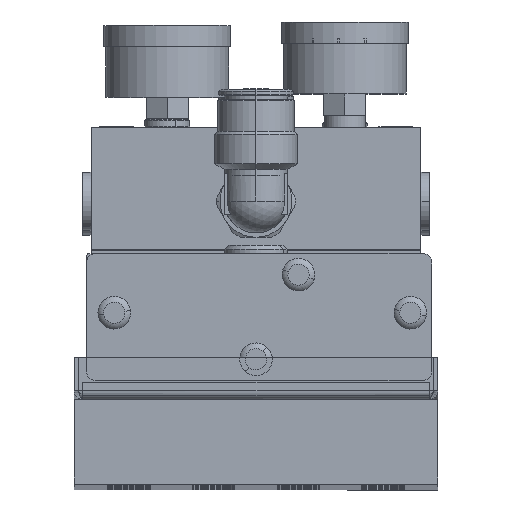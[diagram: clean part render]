
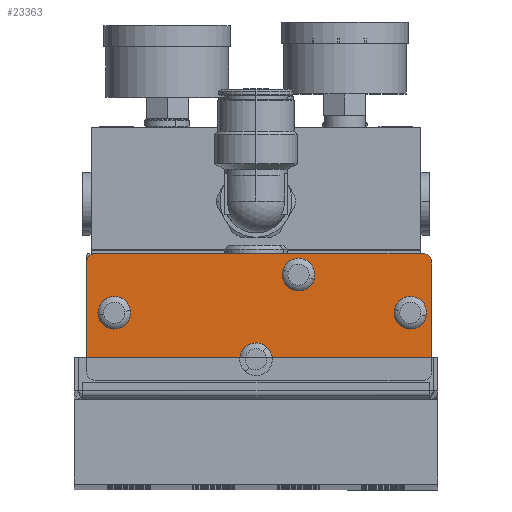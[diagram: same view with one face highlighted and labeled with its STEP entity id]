
A CAD part, top view. The second image highlights one B-rep face of the part: STEP entity #23363.
In plain terms, the highlighted planar face has unit normal (0, 0, 1).
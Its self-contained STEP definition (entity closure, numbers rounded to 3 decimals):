
#1238 = CARTESIAN_POINT ( 'NONE',  ( 39.5, -15., 401. ) ) ;
#1241 = CARTESIAN_POINT ( 'NONE',  ( 32.725, 1.79, 401. ) ) ;
#1379 = CARTESIAN_POINT ( 'NONE',  ( -38., 15., 401. ) ) ;
#1403 = CARTESIAN_POINT ( 'NONE',  ( -29.682, 1.544, 401. ) ) ;
#1425 = CARTESIAN_POINT ( 'NONE',  ( 2.572, -7.126, 401. ) ) ;
#1625 = CARTESIAN_POINT ( 'NONE',  ( 40.275, 0.21, 401. ) ) ;
#1765 = CARTESIAN_POINT ( 'NONE',  ( 13.734, 8.858, 401. ) ) ;
#1973 = CARTESIAN_POINT ( 'NONE',  ( -2.572, -12.874, 401. ) ) ;
#4815 = VERTEX_POINT ( 'NONE', #44480 ) ;
#5043 = VERTEX_POINT ( 'NONE', #15199 ) ;
#5156 = VERTEX_POINT ( 'NONE', #15052 ) ;
#5553 = VERTEX_POINT ( 'NONE', #15742 ) ;
#5660 = VERTEX_POINT ( 'NONE', #15562 ) ;
#5702 = VERTEX_POINT ( 'NONE', #15832 ) ;
#5800 = VERTEX_POINT ( 'NONE', #39839 ) ;
#5803 = VERTEX_POINT ( 'NONE', #39487 ) ;
#7003 = AXIS2_PLACEMENT_3D ( 'NONE', #24754, #24757, #24764 ) ;
#10822 = AXIS2_PLACEMENT_3D ( 'NONE', #55471, #55473, #55475 ) ;
#10983 = AXIS2_PLACEMENT_3D ( 'NONE', #56024, #56026, #56029 ) ;
#11205 = AXIS2_PLACEMENT_3D ( 'NONE', #55890, #55892, #55894 ) ;
#11215 = AXIS2_PLACEMENT_3D ( 'NONE', #55880, #55881, #55883 ) ;
#11221 = AXIS2_PLACEMENT_3D ( 'NONE', #56017, #56018, #56020 ) ;
#11529 = AXIS2_PLACEMENT_3D ( 'NONE', #55861, #55863, #55865 ) ;
#11573 = AXIS2_PLACEMENT_3D ( 'NONE', #55994, #55996, #55997 ) ;
#11574 = AXIS2_PLACEMENT_3D ( 'NONE', #55981, #55982, #55984 ) ;
#11627 = AXIS2_PLACEMENT_3D ( 'NONE', #55829, #55831, #55834 ) ;
#12216 = ORIENTED_EDGE ( 'NONE', *, *, #34752, .T. ) ;
#15052 = CARTESIAN_POINT ( 'NONE',  ( 6.366, 11.142, 401. ) ) ;
#15199 = CARTESIAN_POINT ( 'NONE',  ( -37.318, 0.456, 401. ) ) ;
#15562 = CARTESIAN_POINT ( 'NONE',  ( -40., 13., 401. ) ) ;
#15742 = CARTESIAN_POINT ( 'NONE',  ( -38., -15., 401. ) ) ;
#15832 = CARTESIAN_POINT ( 'NONE',  ( 41.5, 13., 401. ) ) ;
#16169 = ORIENTED_EDGE ( 'NONE', *, *, #52337, .T. ) ;
#16325 = ORIENTED_EDGE ( 'NONE', *, *, #52343, .T. ) ;
#16414 = ORIENTED_EDGE ( 'NONE', *, *, #52321, .T. ) ;
#16614 = ORIENTED_EDGE ( 'NONE', *, *, #52347, .T. ) ;
#16616 = ORIENTED_EDGE ( 'NONE', *, *, #34767, .T. ) ;
#16655 = ORIENTED_EDGE ( 'NONE', *, *, #52330, .T. ) ;
#16689 = ORIENTED_EDGE ( 'NONE', *, *, #52323, .T. ) ;
#16691 = ORIENTED_EDGE ( 'NONE', *, *, #52329, .T. ) ;
#16841 = ORIENTED_EDGE ( 'NONE', *, *, #52348, .T. ) ;
#16846 = ORIENTED_EDGE ( 'NONE', *, *, #52345, .T. ) ;
#16848 = ORIENTED_EDGE ( 'NONE', *, *, #52319, .T. ) ;
#16983 = ORIENTED_EDGE ( 'NONE', *, *, #52326, .T. ) ;
#17085 = ORIENTED_EDGE ( 'NONE', *, *, #52327, .T. ) ;
#17087 = ORIENTED_EDGE ( 'NONE', *, *, #51752, .T. ) ;
#17112 = ORIENTED_EDGE ( 'NONE', *, *, #34660, .T. ) ;
#20185 = LINE ( 'NONE', #55791, #20199 ) ;
#20197 = CIRCLE ( 'NONE', #11627, 2. ) ;
#20199 = VECTOR ( 'NONE', #55813, 1000. ) ;
#20207 = LINE ( 'NONE', #55838, #20213 ) ;
#20213 = VECTOR ( 'NONE', #55843, 1000. ) ;
#20215 = CIRCLE ( 'NONE', #11215, 2. ) ;
#20219 = CIRCLE ( 'NONE', #11529, 2. ) ;
#20223 = LINE ( 'NONE', #55850, #20227 ) ;
#20227 = VECTOR ( 'NONE', #55825, 1000. ) ;
#20233 = CIRCLE ( 'NONE', #11205, 2. ) ;
#20254 = LINE ( 'NONE', #55926, #20260 ) ;
#20260 = VECTOR ( 'NONE', #55929, 1000. ) ;
#20272 = CIRCLE ( 'NONE', #11574, 3.857 ) ;
#20276 = CIRCLE ( 'NONE', #11573, 3.857 ) ;
#20281 = CIRCLE ( 'NONE', #11221, 3.857 ) ;
#20283 = CIRCLE ( 'NONE', #10983, 3.857 ) ;
#23363 = ADVANCED_FACE ( 'NONE', ( #31718, #31676, #31712, #31565, #31698 ), #24751, .F. ) ;
#24751 = PLANE ( 'NONE',  #7003 ) ;
#24754 = CARTESIAN_POINT ( 'NONE',  ( -38., 13., 401. ) ) ;
#24757 = DIRECTION ( 'NONE',  ( 0., 0., -1. ) ) ;
#24764 = DIRECTION ( 'NONE',  ( -1., 0., 0. ) ) ;
#31565 = FACE_BOUND ( 'NONE', #50222, .T. ) ;
#31676 = FACE_BOUND ( 'NONE', #51122, .T. ) ;
#31698 = FACE_OUTER_BOUND ( 'NONE', #50226, .T. ) ;
#31712 = FACE_BOUND ( 'NONE', #50690, .T. ) ;
#31718 = FACE_BOUND ( 'NONE', #50221, .T. ) ;
#34660 = EDGE_CURVE ( 'NONE', #39069, #5156, #40662, .T. ) ;
#34752 = EDGE_CURVE ( 'NONE', #38400, #5043, #40754, .T. ) ;
#34767 = EDGE_CURVE ( 'NONE', #38446, #39304, #40767, .T. ) ;
#36106 = CIRCLE ( 'NONE', #10822, 3.857 ) ;
#37315 = AXIS2_PLACEMENT_3D ( 'NONE', #53246, #53247, #53248 ) ;
#37333 = AXIS2_PLACEMENT_3D ( 'NONE', #53442, #53443, #53444 ) ;
#37339 = AXIS2_PLACEMENT_3D ( 'NONE', #53420, #53421, #53422 ) ;
#37894 = VERTEX_POINT ( 'NONE', #1238 ) ;
#37949 = VERTEX_POINT ( 'NONE', #1241 ) ;
#38314 = VERTEX_POINT ( 'NONE', #1379 ) ;
#38400 = VERTEX_POINT ( 'NONE', #1403 ) ;
#38446 = VERTEX_POINT ( 'NONE', #1425 ) ;
#38896 = VERTEX_POINT ( 'NONE', #1625 ) ;
#39069 = VERTEX_POINT ( 'NONE', #1765 ) ;
#39304 = VERTEX_POINT ( 'NONE', #1973 ) ;
#39487 = CARTESIAN_POINT ( 'NONE',  ( -40., -13., 401. ) ) ;
#39839 = CARTESIAN_POINT ( 'NONE',  ( 41.5, -13., 401. ) ) ;
#40662 = CIRCLE ( 'NONE', #37315, 3.857 ) ;
#40754 = CIRCLE ( 'NONE', #37339, 3.857 ) ;
#40767 = CIRCLE ( 'NONE', #37333, 3.857 ) ;
#44480 = CARTESIAN_POINT ( 'NONE',  ( 39.5, 15., 401. ) ) ;
#50221 = EDGE_LOOP ( 'NONE', ( #17112, #16841 ) ) ;
#50222 = EDGE_LOOP ( 'NONE', ( #16616, #16846 ) ) ;
#50226 = EDGE_LOOP ( 'NONE', ( #16414, #16848, #16983, #16689, #16655, #17085, #16691, #16169 ) ) ;
#50690 = EDGE_LOOP ( 'NONE', ( #12216, #16325 ) ) ;
#51122 = EDGE_LOOP ( 'NONE', ( #17087, #16614 ) ) ;
#51752 = EDGE_CURVE ( 'NONE', #38896, #37949, #36106, .T. ) ;
#52319 = EDGE_CURVE ( 'NONE', #5660, #5803, #20185, .T. ) ;
#52321 = EDGE_CURVE ( 'NONE', #38314, #5660, #20197, .T. ) ;
#52323 = EDGE_CURVE ( 'NONE', #5553, #37894, #20207, .T. ) ;
#52326 = EDGE_CURVE ( 'NONE', #5803, #5553, #20219, .T. ) ;
#52327 = EDGE_CURVE ( 'NONE', #5800, #5702, #20223, .T. ) ;
#52329 = EDGE_CURVE ( 'NONE', #5702, #4815, #20215, .T. ) ;
#52330 = EDGE_CURVE ( 'NONE', #37894, #5800, #20233, .T. ) ;
#52337 = EDGE_CURVE ( 'NONE', #4815, #38314, #20254, .T. ) ;
#52343 = EDGE_CURVE ( 'NONE', #5043, #38400, #20272, .T. ) ;
#52345 = EDGE_CURVE ( 'NONE', #39304, #38446, #20276, .T. ) ;
#52347 = EDGE_CURVE ( 'NONE', #37949, #38896, #20281, .T. ) ;
#52348 = EDGE_CURVE ( 'NONE', #5156, #39069, #20283, .T. ) ;
#53246 = CARTESIAN_POINT ( 'NONE',  ( 10.05, 10., 401. ) ) ;
#53247 = DIRECTION ( 'NONE',  ( 0., 0., -1. ) ) ;
#53248 = DIRECTION ( 'NONE',  ( -1., 0., 0. ) ) ;
#53420 = CARTESIAN_POINT ( 'NONE',  ( -33.5, 1., 401. ) ) ;
#53421 = DIRECTION ( 'NONE',  ( 0., 0., -1. ) ) ;
#53422 = DIRECTION ( 'NONE',  ( -1., 0., 0. ) ) ;
#53442 = CARTESIAN_POINT ( 'NONE',  ( 0., -10., 401. ) ) ;
#53443 = DIRECTION ( 'NONE',  ( 0., 0., -1. ) ) ;
#53444 = DIRECTION ( 'NONE',  ( -1., 0., 0. ) ) ;
#55471 = CARTESIAN_POINT ( 'NONE',  ( 36.5, 1., 401. ) ) ;
#55473 = DIRECTION ( 'NONE',  ( 0., 0., -1. ) ) ;
#55475 = DIRECTION ( 'NONE',  ( -1., 0., 0. ) ) ;
#55791 = CARTESIAN_POINT ( 'NONE',  ( -40., 13., 401. ) ) ;
#55813 = DIRECTION ( 'NONE',  ( 0., -1., 0. ) ) ;
#55825 = DIRECTION ( 'NONE',  ( 0., 1., 0. ) ) ;
#55829 = CARTESIAN_POINT ( 'NONE',  ( -38., 13., 401. ) ) ;
#55831 = DIRECTION ( 'NONE',  ( 0., 0., 1. ) ) ;
#55834 = DIRECTION ( 'NONE',  ( -1., 0., 0. ) ) ;
#55838 = CARTESIAN_POINT ( 'NONE',  ( -38., -15., 401. ) ) ;
#55843 = DIRECTION ( 'NONE',  ( 1., 0., 0. ) ) ;
#55850 = CARTESIAN_POINT ( 'NONE',  ( 41.5, 13., 401. ) ) ;
#55861 = CARTESIAN_POINT ( 'NONE',  ( -38., -13., 401. ) ) ;
#55863 = DIRECTION ( 'NONE',  ( 0., 0., 1. ) ) ;
#55865 = DIRECTION ( 'NONE',  ( -1., 0., 0. ) ) ;
#55880 = CARTESIAN_POINT ( 'NONE',  ( 39.5, 13., 401. ) ) ;
#55881 = DIRECTION ( 'NONE',  ( 0., 0., 1. ) ) ;
#55883 = DIRECTION ( 'NONE',  ( 1., 0., 0. ) ) ;
#55890 = CARTESIAN_POINT ( 'NONE',  ( 39.5, -13., 401. ) ) ;
#55892 = DIRECTION ( 'NONE',  ( 0., 0., 1. ) ) ;
#55894 = DIRECTION ( 'NONE',  ( 1., 0., 0. ) ) ;
#55926 = CARTESIAN_POINT ( 'NONE',  ( -38., 15., 401. ) ) ;
#55929 = DIRECTION ( 'NONE',  ( -1., 0., 0. ) ) ;
#55981 = CARTESIAN_POINT ( 'NONE',  ( -33.5, 1., 401. ) ) ;
#55982 = DIRECTION ( 'NONE',  ( 0., 0., -1. ) ) ;
#55984 = DIRECTION ( 'NONE',  ( -1., 0., 0. ) ) ;
#55994 = CARTESIAN_POINT ( 'NONE',  ( 0., -10., 401. ) ) ;
#55996 = DIRECTION ( 'NONE',  ( 0., 0., -1. ) ) ;
#55997 = DIRECTION ( 'NONE',  ( -1., 0., 0. ) ) ;
#56017 = CARTESIAN_POINT ( 'NONE',  ( 36.5, 1., 401. ) ) ;
#56018 = DIRECTION ( 'NONE',  ( 0., 0., -1. ) ) ;
#56020 = DIRECTION ( 'NONE',  ( -1., 0., 0. ) ) ;
#56024 = CARTESIAN_POINT ( 'NONE',  ( 10.05, 10., 401. ) ) ;
#56026 = DIRECTION ( 'NONE',  ( 0., 0., -1. ) ) ;
#56029 = DIRECTION ( 'NONE',  ( -1., 0., 0. ) ) ;
